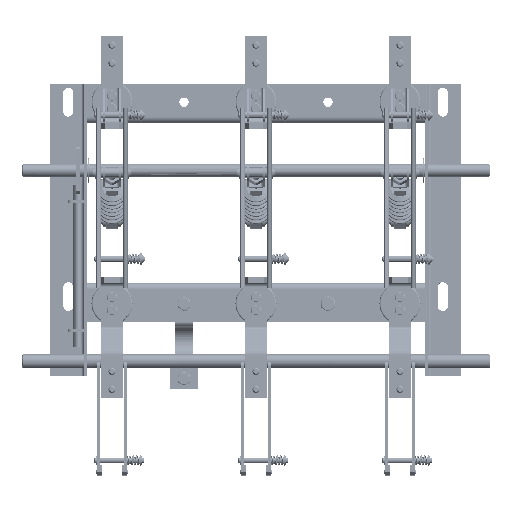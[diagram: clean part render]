
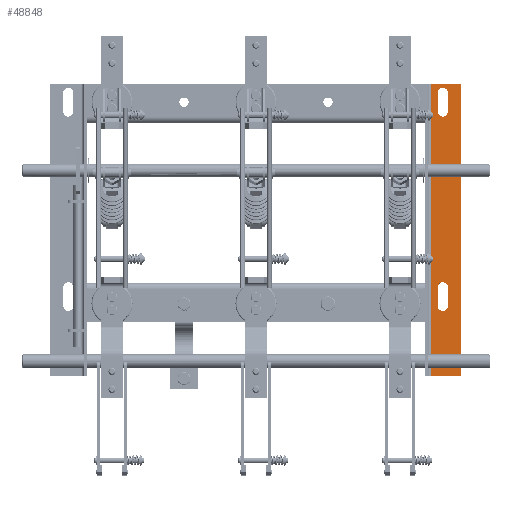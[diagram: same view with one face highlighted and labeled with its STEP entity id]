
A CAD part, top view. The second image highlights one B-rep face of the part: STEP entity #48848.
In plain terms, the highlighted planar face has unit normal (0, 0, 1).
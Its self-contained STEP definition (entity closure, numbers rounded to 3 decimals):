
#98 = ORIENTED_EDGE ( 'NONE', *, *, #34258, .F. ) ;
#431 = CARTESIAN_POINT ( 'NONE',  ( 285.604, -245., 4. ) ) ;
#1691 = DIRECTION ( 'NONE',  ( 1., 0., 0. ) ) ;
#2756 = CARTESIAN_POINT ( 'NONE',  ( 285.604, 160., 4. ) ) ;
#7901 = EDGE_CURVE ( 'NONE', #117564, #44583, #126471, .T. ) ;
#8051 = ORIENTED_EDGE ( 'NONE', *, *, #72661, .F. ) ;
#8956 = DIRECTION ( 'NONE',  ( 1., 0., 0. ) ) ;
#13194 = LINE ( 'NONE', #113891, #99163 ) ;
#14967 = EDGE_CURVE ( 'NONE', #52614, #117564, #41018, .T. ) ;
#18767 = CARTESIAN_POINT ( 'NONE',  ( 285.604, -245., 4. ) ) ;
#19770 = VERTEX_POINT ( 'NONE', #140385 ) ;
#21898 = ORIENTED_EDGE ( 'NONE', *, *, #14967, .T. ) ;
#22005 = VECTOR ( 'NONE', #137868, 1000. ) ;
#22479 = VERTEX_POINT ( 'NONE', #18767 ) ;
#24915 = CARTESIAN_POINT ( 'NONE',  ( 253.104, -148., 4. ) ) ;
#25536 = LINE ( 'NONE', #70568, #22005 ) ;
#27334 = DIRECTION ( 'NONE',  ( 0., -1., 0. ) ) ;
#27768 = VERTEX_POINT ( 'NONE', #2756 ) ;
#30115 = ORIENTED_EDGE ( 'NONE', *, *, #75874, .T. ) ;
#30171 = CARTESIAN_POINT ( 'NONE',  ( 260.104, -122., 4. ) ) ;
#33129 = AXIS2_PLACEMENT_3D ( 'NONE', #38837, #117312, #50154 ) ;
#34258 = EDGE_CURVE ( 'NONE', #22479, #68399, #143140, .T. ) ;
#35986 = CARTESIAN_POINT ( 'NONE',  ( 253.104, -122., 4. ) ) ;
#36438 = EDGE_LOOP ( 'NONE', ( #67321, #98, #116808, #8051 ) ) ;
#37093 = VERTEX_POINT ( 'NONE', #62243 ) ;
#38348 = PLANE ( 'NONE',  #33129 ) ;
#38837 = CARTESIAN_POINT ( 'NONE',  ( 286.804, -47.5, 4. ) ) ;
#41018 = CIRCLE ( 'NONE', #132727, 7. ) ;
#41426 = DIRECTION ( 'NONE',  ( -1., 0., 0. ) ) ;
#43462 = DIRECTION ( 'NONE',  ( 0., 1., 0. ) ) ;
#44583 = VERTEX_POINT ( 'NONE', #35986 ) ;
#46539 = CARTESIAN_POINT ( 'NONE',  ( 260.104, -148., 4. ) ) ;
#46976 = EDGE_CURVE ( 'NONE', #27768, #22479, #64673, .T. ) ;
#48848 = ADVANCED_FACE ( 'NONE', ( #114500, #140904, #144377 ), #38348, .F. ) ;
#50154 = DIRECTION ( 'NONE',  ( -1., 0., 0. ) ) ;
#50415 = CARTESIAN_POINT ( 'NONE',  ( 267.104, -148., 4. ) ) ;
#52614 = VERTEX_POINT ( 'NONE', #50415 ) ;
#54095 = EDGE_CURVE ( 'NONE', #68399, #37093, #25536, .T. ) ;
#54242 = EDGE_CURVE ( 'NONE', #91729, #19770, #104318, .T. ) ;
#54936 = CIRCLE ( 'NONE', #105967, 7. ) ;
#57784 = DIRECTION ( 'NONE',  ( 1., 0., 0. ) ) ;
#59143 = CARTESIAN_POINT ( 'NONE',  ( 260.104, 148., 4. ) ) ;
#59733 = ORIENTED_EDGE ( 'NONE', *, *, #54242, .T. ) ;
#61172 = LINE ( 'NONE', #117570, #91007 ) ;
#61180 = VECTOR ( 'NONE', #108035, 1000. ) ;
#62243 = CARTESIAN_POINT ( 'NONE',  ( 243.6, 160., 4. ) ) ;
#64673 = LINE ( 'NONE', #141933, #61180 ) ;
#66775 = VECTOR ( 'NONE', #43462, 1000. ) ;
#67321 = ORIENTED_EDGE ( 'NONE', *, *, #54095, .F. ) ;
#68399 = VERTEX_POINT ( 'NONE', #71011 ) ;
#68784 = DIRECTION ( 'NONE',  ( 0., 0., -1. ) ) ;
#70392 = DIRECTION ( 'NONE',  ( -1., 0., 0. ) ) ;
#70568 = CARTESIAN_POINT ( 'NONE',  ( 243.6, -245., 4. ) ) ;
#71011 = CARTESIAN_POINT ( 'NONE',  ( 243.6, -245., 4. ) ) ;
#72437 = EDGE_CURVE ( 'NONE', #19770, #135815, #107394, .T. ) ;
#72661 = EDGE_CURVE ( 'NONE', #37093, #27768, #79114, .T. ) ;
#75874 = EDGE_CURVE ( 'NONE', #121106, #91729, #143972, .T. ) ;
#76924 = DIRECTION ( 'NONE',  ( 0., -1., 0. ) ) ;
#79114 = LINE ( 'NONE', #97704, #105411 ) ;
#86964 = VECTOR ( 'NONE', #137760, 1000. ) ;
#91007 = VECTOR ( 'NONE', #27334, 1000. ) ;
#91729 = VERTEX_POINT ( 'NONE', #106198 ) ;
#93445 = AXIS2_PLACEMENT_3D ( 'NONE', #136104, #68784, #1691 ) ;
#94339 = ORIENTED_EDGE ( 'NONE', *, *, #72437, .T. ) ;
#94412 = EDGE_LOOP ( 'NONE', ( #30115, #59733, #94339, #140297 ) ) ;
#97704 = CARTESIAN_POINT ( 'NONE',  ( 243.6, 160., 4. ) ) ;
#98210 = EDGE_CURVE ( 'NONE', #135815, #121106, #13194, .T. ) ;
#99163 = VECTOR ( 'NONE', #102596, 1000. ) ;
#99595 = EDGE_LOOP ( 'NONE', ( #122237, #133014, #21898, #131259 ) ) ;
#102596 = DIRECTION ( 'NONE',  ( 0., 1., 0. ) ) ;
#104318 = LINE ( 'NONE', #144165, #130665 ) ;
#105191 = CARTESIAN_POINT ( 'NONE',  ( 253.104, 148., 4. ) ) ;
#105411 = VECTOR ( 'NONE', #8956, 1000. ) ;
#105967 = AXIS2_PLACEMENT_3D ( 'NONE', #30171, #108597, #41426 ) ;
#106198 = CARTESIAN_POINT ( 'NONE',  ( 267.104, 148., 4. ) ) ;
#107394 = CIRCLE ( 'NONE', #93445, 7. ) ;
#108035 = DIRECTION ( 'NONE',  ( 0., -1., 0. ) ) ;
#108597 = DIRECTION ( 'NONE',  ( 0., 0., -1. ) ) ;
#109046 = EDGE_CURVE ( 'NONE', #44583, #142225, #54936, .T. ) ;
#110626 = CARTESIAN_POINT ( 'NONE',  ( 253.104, -148., 4. ) ) ;
#112721 = AXIS2_PLACEMENT_3D ( 'NONE', #59143, #137690, #70392 ) ;
#113891 = CARTESIAN_POINT ( 'NONE',  ( 253.104, 122., 4. ) ) ;
#114500 = FACE_OUTER_BOUND ( 'NONE', #36438, .T. ) ;
#116808 = ORIENTED_EDGE ( 'NONE', *, *, #46976, .F. ) ;
#117312 = DIRECTION ( 'NONE',  ( 0., 0., -1. ) ) ;
#117564 = VERTEX_POINT ( 'NONE', #24915 ) ;
#117570 = CARTESIAN_POINT ( 'NONE',  ( 267.104, -122., 4. ) ) ;
#121106 = VERTEX_POINT ( 'NONE', #105191 ) ;
#122237 = ORIENTED_EDGE ( 'NONE', *, *, #109046, .T. ) ;
#124998 = DIRECTION ( 'NONE',  ( 0., 0., -1. ) ) ;
#126471 = LINE ( 'NONE', #110626, #66775 ) ;
#130665 = VECTOR ( 'NONE', #76924, 1000. ) ;
#131259 = ORIENTED_EDGE ( 'NONE', *, *, #7901, .T. ) ;
#132630 = CARTESIAN_POINT ( 'NONE',  ( 253.104, 122., 4. ) ) ;
#132727 = AXIS2_PLACEMENT_3D ( 'NONE', #46539, #124998, #57784 ) ;
#133014 = ORIENTED_EDGE ( 'NONE', *, *, #134915, .T. ) ;
#134915 = EDGE_CURVE ( 'NONE', #142225, #52614, #61172, .T. ) ;
#135815 = VERTEX_POINT ( 'NONE', #132630 ) ;
#136104 = CARTESIAN_POINT ( 'NONE',  ( 260.104, 122., 4. ) ) ;
#137690 = DIRECTION ( 'NONE',  ( 0., 0., -1. ) ) ;
#137760 = DIRECTION ( 'NONE',  ( -1., 0., 0. ) ) ;
#137868 = DIRECTION ( 'NONE',  ( 0., 1., 0. ) ) ;
#140297 = ORIENTED_EDGE ( 'NONE', *, *, #98210, .T. ) ;
#140385 = CARTESIAN_POINT ( 'NONE',  ( 267.104, 122., 4. ) ) ;
#140904 = FACE_BOUND ( 'NONE', #94412, .T. ) ;
#141933 = CARTESIAN_POINT ( 'NONE',  ( 285.604, 160., 4. ) ) ;
#142225 = VERTEX_POINT ( 'NONE', #145552 ) ;
#143140 = LINE ( 'NONE', #431, #86964 ) ;
#143972 = CIRCLE ( 'NONE', #112721, 7. ) ;
#144165 = CARTESIAN_POINT ( 'NONE',  ( 267.104, 148., 4. ) ) ;
#144377 = FACE_BOUND ( 'NONE', #99595, .T. ) ;
#145552 = CARTESIAN_POINT ( 'NONE',  ( 267.104, -122., 4. ) ) ;
